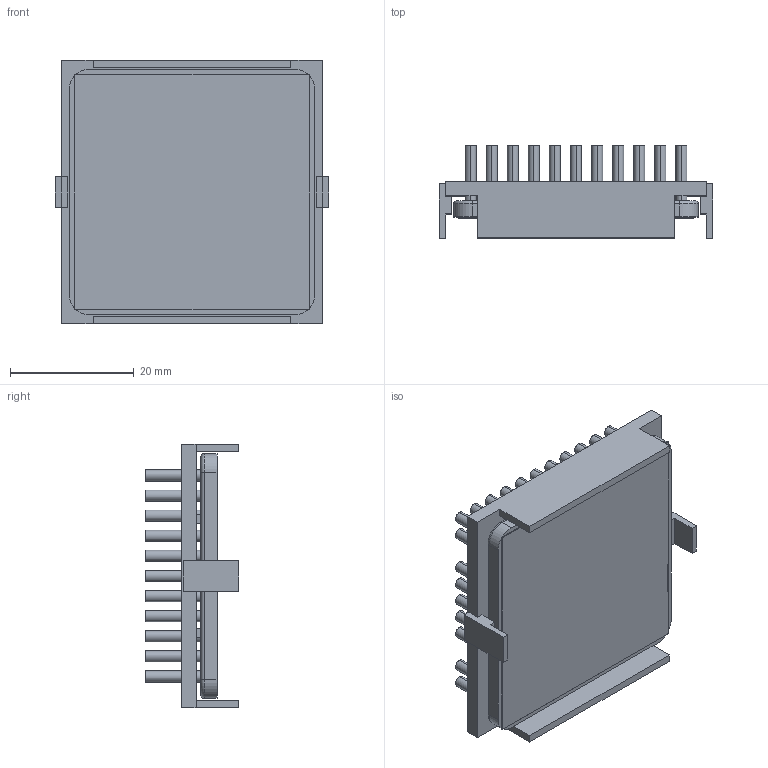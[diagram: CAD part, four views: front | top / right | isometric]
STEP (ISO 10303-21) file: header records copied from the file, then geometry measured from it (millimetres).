
FILE_DESCRIPTION (( 'STEP AP214' ), '1' );
FILE_NAME ('INM40002-12PCU-2.6Y.STEP', '2023-02-27T17:28:54', ( '' ), ( '' ), 'SwSTEP 2.0', 'SolidWorks 2020', '' );
FILE_SCHEMA (( 'AUTOMOTIVE_DESIGN' ));
Length unit declared in the file: inch
Products named in the file (1): INM40002-12PCU-2.6Y
Bounding box: 44.2 x 15.1 x 42.7 mm (x, y, z)
Volume: 8806.1 mm3; surface area: 15251.4 mm2
Topology: 3 solids, 3 shells, 421 faces, 898 edges, 596 vertices
Faces by surface type: cylinder 234, plane 183, torus 4
Entity records: 17099 total; most frequent: DIRECTION 2214, CARTESIAN_POINT 1916, ORIENTED_EDGE 1796, EDGE_CURVE 898, AXIS2_PLACEMENT_3D 894, VERTEX_POINT 596, EDGE_LOOP 536, CIRCLE 472
